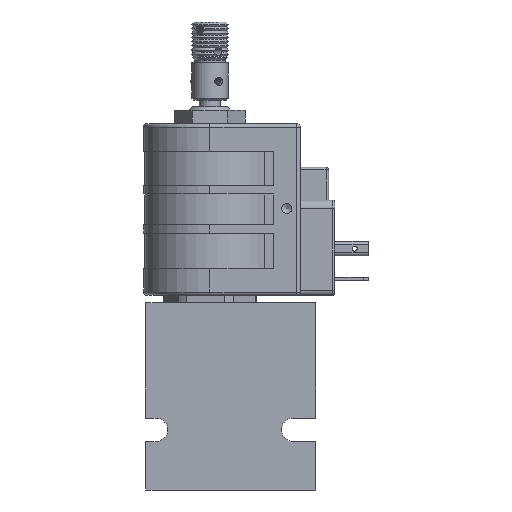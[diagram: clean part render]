
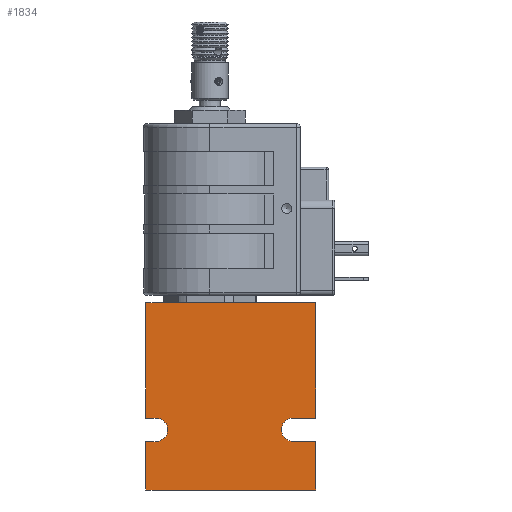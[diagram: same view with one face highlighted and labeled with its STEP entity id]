
A CAD part, front view. The second image highlights one B-rep face of the part: STEP entity #1834.
In plain terms, the highlighted planar face has unit normal (0, -1, 0).
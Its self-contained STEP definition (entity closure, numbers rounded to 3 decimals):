
#1834 = ADVANCED_FACE( '', ( #3956 ), #3957, .T. );
#3956 = FACE_OUTER_BOUND( '', #6525, .T. );
#3957 = PLANE( '', #6526 );
#6525 = EDGE_LOOP( '', ( #11107, #11108, #11109, #11110, #11111, #11112, #11113, #11114, #11115, #11116, #11117, #11118 ) );
#6526 = AXIS2_PLACEMENT_3D( '', #11119, #11120, #11121 );
#11107 = ORIENTED_EDGE( '', *, *, #15416, .F. );
#11108 = ORIENTED_EDGE( '', *, *, #15896, .F. );
#11109 = ORIENTED_EDGE( '', *, *, #16080, .F. );
#11110 = ORIENTED_EDGE( '', *, *, #15760, .F. );
#11111 = ORIENTED_EDGE( '', *, *, #15263, .F. );
#11112 = ORIENTED_EDGE( '', *, *, #16081, .F. );
#11113 = ORIENTED_EDGE( '', *, *, #14921, .F. );
#11114 = ORIENTED_EDGE( '', *, *, #15835, .F. );
#11115 = ORIENTED_EDGE( '', *, *, #16082, .F. );
#11116 = ORIENTED_EDGE( '', *, *, #15290, .F. );
#11117 = ORIENTED_EDGE( '', *, *, #16083, .F. );
#11118 = ORIENTED_EDGE( '', *, *, #15122, .F. );
#11119 = CARTESIAN_POINT( '', ( 44., 0., -38. ) );
#11120 = DIRECTION( '', ( 0., -1., 0. ) );
#11121 = DIRECTION( '', ( 0., 0., -1. ) );
#14921 = EDGE_CURVE( '', #17617, #17618, #17619, .T. );
#15122 = EDGE_CURVE( '', #17951, #17952, #17953, .T. );
#15263 = EDGE_CURVE( '', #18185, #18186, #18187, .T. );
#15290 = EDGE_CURVE( '', #18228, #18229, #18230, .T. );
#15416 = EDGE_CURVE( '', #18418, #17951, #18419, .T. );
#15760 = EDGE_CURVE( '', #18186, #18960, #18961, .T. );
#15835 = EDGE_CURVE( '', #19074, #17617, #19075, .T. );
#15896 = EDGE_CURVE( '', #19164, #18418, #19165, .T. );
#16080 = EDGE_CURVE( '', #18960, #19164, #19415, .T. );
#16081 = EDGE_CURVE( '', #17618, #18185, #19416, .T. );
#16082 = EDGE_CURVE( '', #18229, #19074, #19417, .T. );
#16083 = EDGE_CURVE( '', #17952, #18228, #19418, .T. );
#17617 = VERTEX_POINT( '', #21848 );
#17618 = VERTEX_POINT( '', #21849 );
#17619 = LINE( '', #21850, #21851 );
#17951 = VERTEX_POINT( '', #22795 );
#17952 = VERTEX_POINT( '', #22796 );
#17953 = LINE( '', #22797, #22798 );
#18185 = VERTEX_POINT( '', #23261 );
#18186 = VERTEX_POINT( '', #23262 );
#18187 = LINE( '', #23263, #23264 );
#18228 = VERTEX_POINT( '', #23331 );
#18229 = VERTEX_POINT( '', #23332 );
#18230 = LINE( '', #23333, #23334 );
#18418 = VERTEX_POINT( '', #23675 );
#18419 = LINE( '', #23676, #23677 );
#18960 = VERTEX_POINT( '', #25066 );
#18961 = LINE( '', #25067, #25068 );
#19074 = VERTEX_POINT( '', #25245 );
#19075 = LINE( '', #25246, #25247 );
#19164 = VERTEX_POINT( '', #25535 );
#19165 = LINE( '', #25536, #25537 );
#19415 = CIRCLE( '', #25930, 3.5 );
#19416 = LINE( '', #25931, #25932 );
#19417 = CIRCLE( '', #25933, 3.5 );
#19418 = LINE( '', #25934, #25935 );
#21848 = CARTESIAN_POINT( '', ( 50.8, 0., -41.5 ) );
#21849 = CARTESIAN_POINT( '', ( 50.8, 0., -56. ) );
#21850 = CARTESIAN_POINT( '', ( 50.8, 0., -41.5 ) );
#21851 = VECTOR( '', #27951, 1000. );
#22795 = CARTESIAN_POINT( '', ( 0., 0., 0. ) );
#22796 = CARTESIAN_POINT( '', ( 50.8, 0., 0. ) );
#22797 = CARTESIAN_POINT( '', ( 0., 0., 0. ) );
#22798 = VECTOR( '', #28168, 1000. );
#23261 = CARTESIAN_POINT( '', ( 0., 0., -56. ) );
#23262 = CARTESIAN_POINT( '', ( 0., 0., -41.5 ) );
#23263 = CARTESIAN_POINT( '', ( 0., 0., -56. ) );
#23264 = VECTOR( '', #28297, 1000. );
#23331 = CARTESIAN_POINT( '', ( 50.8, 0., -34.5 ) );
#23332 = CARTESIAN_POINT( '', ( 44., 0., -34.5 ) );
#23333 = CARTESIAN_POINT( '', ( 44., 0., -34.5 ) );
#23334 = VECTOR( '', #28320, 1000. );
#23675 = CARTESIAN_POINT( '', ( 0., 0., -34.5 ) );
#23676 = CARTESIAN_POINT( '', ( 0., 0., -34.5 ) );
#23677 = VECTOR( '', #28429, 1000. );
#25066 = CARTESIAN_POINT( '', ( 3., 0., -41.5 ) );
#25067 = CARTESIAN_POINT( '', ( 3., 0., -41.5 ) );
#25068 = VECTOR( '', #28687, 1000. );
#25245 = CARTESIAN_POINT( '', ( 44., 0., -41.5 ) );
#25246 = CARTESIAN_POINT( '', ( 44., 0., -41.5 ) );
#25247 = VECTOR( '', #28752, 1000. );
#25535 = CARTESIAN_POINT( '', ( 3., 0., -34.5 ) );
#25536 = CARTESIAN_POINT( '', ( 3., 0., -34.5 ) );
#25537 = VECTOR( '', #28799, 1000. );
#25930 = AXIS2_PLACEMENT_3D( '', #28946, #28947, #28948 );
#25931 = CARTESIAN_POINT( '', ( 50.8, 0., -56. ) );
#25932 = VECTOR( '', #28949, 1000. );
#25933 = AXIS2_PLACEMENT_3D( '', #28950, #28951, #28952 );
#25934 = CARTESIAN_POINT( '', ( 50.8, 0., 0. ) );
#25935 = VECTOR( '', #28953, 1000. );
#27951 = DIRECTION( '', ( 0., 0., -1. ) );
#28168 = DIRECTION( '', ( 1., 0., 0. ) );
#28297 = DIRECTION( '', ( 0., 0., 1. ) );
#28320 = DIRECTION( '', ( -1., 0., 0. ) );
#28429 = DIRECTION( '', ( 0., 0., 1. ) );
#28687 = DIRECTION( '', ( 1., 0., 0. ) );
#28752 = DIRECTION( '', ( 1., 0., 0. ) );
#28799 = DIRECTION( '', ( -1., 0., 0. ) );
#28946 = CARTESIAN_POINT( '', ( 3., 0., -38. ) );
#28947 = DIRECTION( '', ( 0., -1., 0. ) );
#28948 = DIRECTION( '', ( -1., 0., 0. ) );
#28949 = DIRECTION( '', ( -1., 0., 0. ) );
#28950 = CARTESIAN_POINT( '', ( 44., 0., -38. ) );
#28951 = DIRECTION( '', ( 0., -1., 0. ) );
#28952 = DIRECTION( '', ( 1., 0., 0. ) );
#28953 = DIRECTION( '', ( 0., 0., -1. ) );
